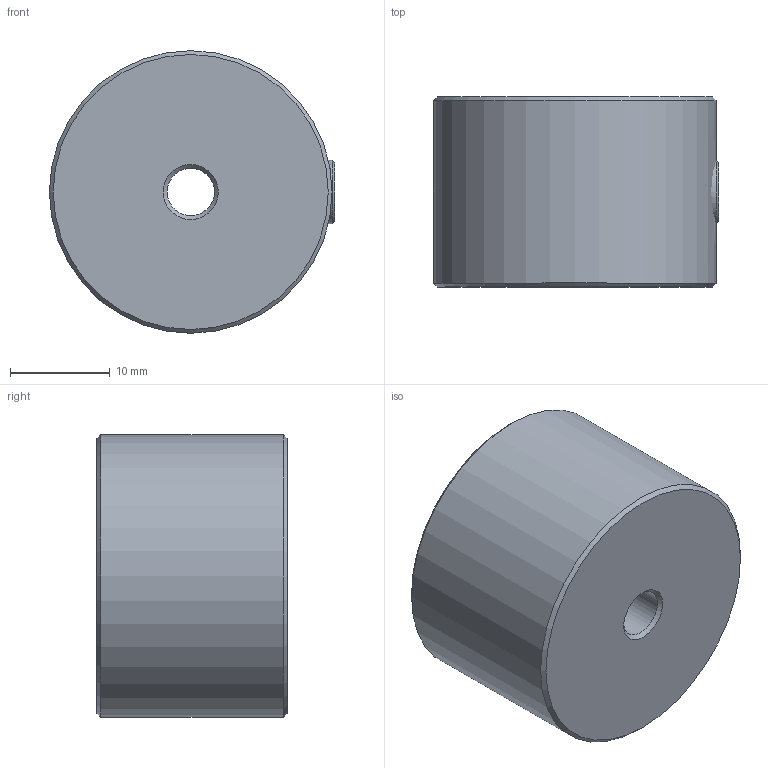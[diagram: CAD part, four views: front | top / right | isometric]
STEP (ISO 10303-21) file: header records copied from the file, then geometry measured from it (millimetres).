
FILE_DESCRIPTION(/* description */ (''),/* implementation_level */ '2;1');
FILE_NAME(/* name */ 'C:/Users/drich/Desktop/D-1000 v1.step',/* time_stamp */ '2020-01-08T19:15:30-06:00',/* author */ (''),/* organization */ (''),/* preprocessor_version */ 'ST-DEVELOPER v18',/* originating_system */ 'Autodesk Translation Framework v8.12.0.6',/* authorisation */ '');
FILE_SCHEMA (('AUTOMOTIVE_DESIGN { 1 0 10303 214 3 1 1 }'));
Length unit declared in the file: inch
Products named in the file (1): D-1000
Bounding box: 28.57 x 19.05 x 28.32 mm (x, y, z)
Volume: 11796.8 mm3; surface area: 3348.4 mm2
Topology: 2 solids, 2 shells, 26 faces, 59 edges, 39 vertices
Faces by surface type: plane 18, cone 5, cylinder 3
Full cylindrical faces by diameter (mm): 4.75 x1, 6.35 x1, 28.321 x1
Entity records: 779 total; most frequent: DIRECTION 132, CARTESIAN_POINT 125, ORIENTED_EDGE 118, EDGE_CURVE 59, AXIS2_PLACEMENT_3D 46, LINE 40, VECTOR 40, VERTEX_POINT 39
